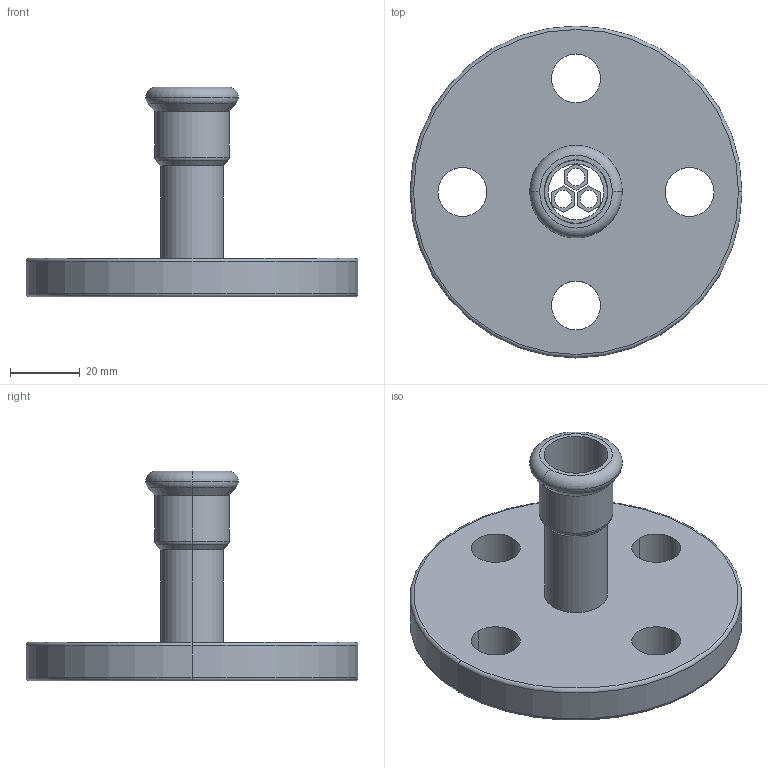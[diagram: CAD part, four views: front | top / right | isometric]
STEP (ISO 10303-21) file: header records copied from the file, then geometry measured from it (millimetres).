
FILE_DESCRIPTION(('OneSpaceDesigner STEP Export'),'2;1');
FILE_NAME('R2726 18.stp','2010-06-10T13:06:50',(''),(''),'OneSpace Designer STEP processor for AP214 (Solid Model)','OneSpace Modeling 15.00A 14-Mar-2007 (C) CoCreate Software GmbH','');
FILE_SCHEMA(('AUTOMOTIVE_DESIGN { 1 0 10303 214 1 1 1 1 }'));
Length unit declared in the file: millimetre
Products named in the file (2): R2726_18
Assembly tree (1 placements, depth 2):
  R2726_18
    R2726_18
Bounding box: 95 x 95 x 60 mm (x, y, z)
Volume: 72848.1 mm3; surface area: 24495.8 mm2
Topology: 2 solids, 2 shells, 78 faces, 189 edges, 120 vertices
Faces by surface type: plane 33, cylinder 31, torus 10, cone 4
Entity records: 2068 total; most frequent: ORIENTED_EDGE 382, CARTESIAN_POINT 327, DIRECTION 313, EDGE_CURVE 189, VERTEX_POINT 120, AXIS2_PLACEMENT_3D 106, EDGE_LOOP 101, VECTOR 101
